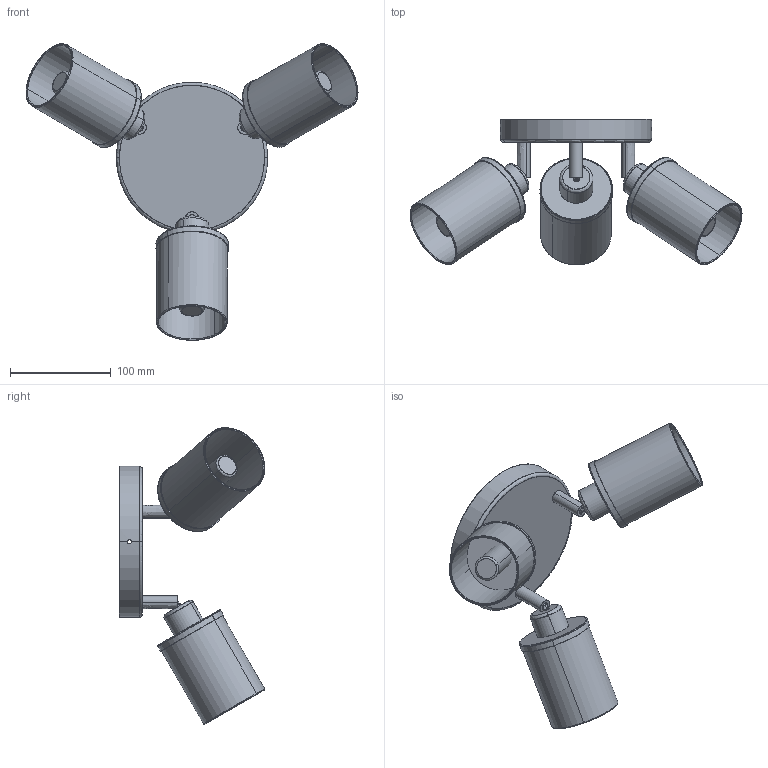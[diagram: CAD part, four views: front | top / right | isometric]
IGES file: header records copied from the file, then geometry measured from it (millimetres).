
Start section: SolidWorks IGES file using analytic representation for surfaces
Global section: file name: Z:\Modele 3D_WWW\_KOLEKCJE_WWW\VISTA\VISTA-III-8050\VISTA-III-8050.IGS; native system: SolidWorks 2021; preprocessor: SolidWorks 2021; author: gabriela.tworek; date: 210721.085651; units: millimetre
Bounding box: 329.52 x 144.36 x 294.35 mm (x, y, z)
Surface area: 283196.5 mm2 (no closed solid volume)
Topology: 0 solids, 0 shells, 615 faces, 9958 edges, 9952 vertices
Faces by surface type: bspline 340, revolution 275
